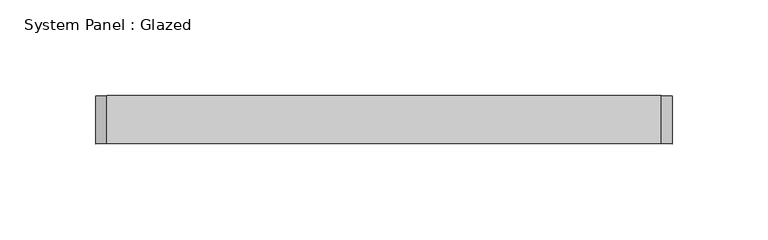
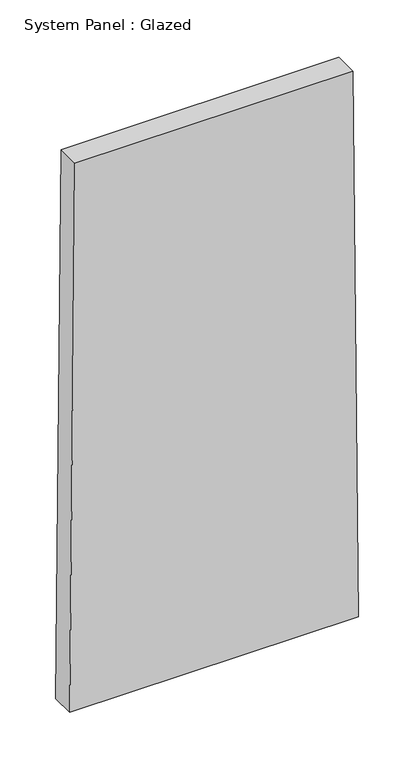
"""IFC4 building model written with IfcOpenShell, lengths in millimetres: plate geometry, System Panel : Glazed."""

import ifcopenshell
import ifcopenshell.guid

model = None  # the IFC model being written
_history = None  # IfcOwnerHistory: only IFC2X3 demands one
_inside = {}  # id of a spatial element -> (the spatial element, [elements in it])
_under = {}  # id of a project, library or spatial element -> (it, [spatial elements below it])
_declared = {}  # id of a project -> (the project, [libraries it declares])
_typed = {}  # id of a type object -> (the type object, [elements of that type])
_made_of = {}  # id of a material, layer set ... -> (it, [elements and type objects made of it])


def new_model(schema):
    """Start an empty IFC model of exactly this schema.

    Asked for "IFC4X3", IfcOpenShell would pick the latest addendum, in which some entities
    have other attributes; the version numbers below select the first issue.
    IFC2X3 requires an IfcOwnerHistory on every rooted entity: one is made here for all.
    """
    global model, _history
    if schema == "IFC4X3":
        model = ifcopenshell.file(schema_version=(4, 3, 0, 0))
    else:
        model = ifcopenshell.file(schema=schema)
    _inside.clear()
    _under.clear()
    _declared.clear()
    _typed.clear()
    _made_of.clear()
    _history = None
    if model.schema == "IFC2X3":
        org = make("IfcOrganization", Name="unknown")
        user = make(
            "IfcPersonAndOrganization",
            ThePerson=make("IfcPerson", FamilyName="unknown"),
            TheOrganization=org,
        )
        app = make(
            "IfcApplication",
            ApplicationDeveloper=org,
            Version="unknown",
            ApplicationFullName="unknown",
            ApplicationIdentifier="unknown",
        )
        _history = make(
            "IfcOwnerHistory",
            OwningUser=user,
            OwningApplication=app,
            ChangeAction="ADDED",
            CreationDate=0,
        )
    return model


def make(cls, **values):
    """One entity of the class cls with the attributes given. An attribute that is None is left unset."""
    return model.create_entity(
        cls, **{name: value for name, value in values.items() if value is not None}
    )


def rooted(cls, **values):
    """An entity with a GlobalId (a new one), such as an element, a storey or a relation."""
    return make(cls, GlobalId=ifcopenshell.guid.new(), OwnerHistory=_history, **values)


def si_unit(unit_type, name, prefix=None):
    """IfcSIUnit, for example si_unit("LENGTHUNIT", "METRE", prefix="MILLI")."""
    return make("IfcSIUnit", UnitType=unit_type, Prefix=prefix, Name=name)


def assignment(units):
    """IfcUnitAssignment: the units of a project."""
    return None if units is None else make("IfcUnitAssignment", Units=units)


def point(xyz):
    """IfcCartesianPoint."""
    return None if xyz is None else make("IfcCartesianPoint", Coordinates=xyz)


def direction(xyz):
    """IfcDirection."""
    return None if xyz is None else make("IfcDirection", DirectionRatios=xyz)


def frame(location, z_axis=None, x_axis=None):
    """IfcAxis2Placement3D, a coordinate frame: its origin and axes. An axis left out is left unset."""
    return make(
        "IfcAxis2Placement3D",
        Location=point(location),
        Axis=direction(z_axis),
        RefDirection=direction(x_axis),
    )


def origin():
    """The frame at (0, 0, 0) with its axes left unset."""
    return frame((0.0, 0.0, 0.0))


def place(relative_to, where):
    """IfcLocalPlacement: puts the frame where relative to a parent placement (None: the world)."""
    return make(
        "IfcLocalPlacement", PlacementRelTo=relative_to, RelativePlacement=where
    )


def context(
    kind, dimensions, precision=None, world=None, true_north=None, identifier=None
):
    """IfcGeometricRepresentationContext, for example the 3D "Model" context."""
    return make(
        "IfcGeometricRepresentationContext",
        ContextIdentifier=identifier,
        ContextType=kind,
        CoordinateSpaceDimension=dimensions,
        Precision=precision,
        WorldCoordinateSystem=world,
        TrueNorth=true_north,
    )


def project(units=None, contexts=None):
    """IfcProject with its units and contexts."""
    return rooted(
        "IfcProject",
        Name="project",
        RepresentationContexts=contexts,
        UnitsInContext=assignment(units),
    )


def spatial(cls, under=None, at=None, **own):
    """A site, building, storey or space (cls), placed at a placement, below another one or the project."""
    s = rooted(cls, ObjectPlacement=at, **own)
    if under is not None:
        _under.setdefault(under.id(), (under, []))[1].append(s)
    return s


def polyline(points):
    """IfcPolyline through the points."""
    return make("IfcPolyline", Points=[point(p) for p in points])


def outline(outer, holes=None, kind="AREA"):
    """IfcArbitraryClosedProfileDef: a profile drawn as a closed curve; with holes, ...WithVoids."""
    if holes is None:
        return make("IfcArbitraryClosedProfileDef", ProfileType=kind, OuterCurve=outer)
    return make(
        "IfcArbitraryProfileDefWithVoids",
        ProfileType=kind,
        OuterCurve=outer,
        InnerCurves=holes,
    )


def extrude(swept, where, along, depth):
    """IfcExtrudedAreaSolid: the profile swept, set in the frame where, extruded along a direction by depth."""
    return make(
        "IfcExtrudedAreaSolid",
        SweptArea=swept,
        Position=where,
        ExtrudedDirection=direction(along),
        Depth=depth,
    )


def shape(context_of_items, identifier, shape_type, items):
    """IfcShapeRepresentation: the items that make up one representation, for example the "Body"."""
    return make(
        "IfcShapeRepresentation",
        ContextOfItems=context_of_items,
        RepresentationIdentifier=identifier,
        RepresentationType=shape_type,
        Items=items,
    )


def source(mapping_origin, context_of_items, identifier, shape_type, items):
    """IfcRepresentationMap: a shape defined once, which mapped items show again and again."""
    return make(
        "IfcRepresentationMap",
        MappingOrigin=mapping_origin,
        MappedRepresentation=shape(context_of_items, identifier, shape_type, items),
    )


def transform(
    local_origin,
    x_axis=None,
    y_axis=None,
    z_axis=None,
    scale=None,
    scale2=None,
    scale3=None,
    uniform=True,
):
    """IfcCartesianTransformationOperator3D, or its non-uniform kind. x_axis, y_axis, z_axis: its Axis1, 2, 3."""
    if uniform:
        return make(
            "IfcCartesianTransformationOperator3D",
            Axis1=direction(x_axis),
            Axis2=direction(y_axis),
            LocalOrigin=point(local_origin),
            Scale=scale,
            Axis3=direction(z_axis),
        )
    return make(
        "IfcCartesianTransformationOperator3DnonUniform",
        Axis1=direction(x_axis),
        Axis2=direction(y_axis),
        LocalOrigin=point(local_origin),
        Scale=scale,
        Axis3=direction(z_axis),
        Scale2=scale2,
        Scale3=scale3,
    )


def mapped(mapping_source, mapping_target):
    """IfcMappedItem: shows the shape of a source again, moved by a transform."""
    return make(
        "IfcMappedItem", MappingSource=mapping_source, MappingTarget=mapping_target
    )


def made_of(thing, what):
    """Note that an element or type object is made of a material, layer set ...; save() writes the relation."""
    if what is not None:
        _made_of.setdefault(what.id(), (what, []))[1].append(thing)
    return thing


def element(
    cls,
    number,
    at=None,
    inside=None,
    cuts=None,
    type_object=None,
    material=None,
    context=None,
    identifier="Body",
    shape_type=None,
    held_by="IfcProductDefinitionShape",
    body=None,
    shapes=None,
    **own,
):
    """One element of the class cls, such as IfcWall. Its Tag is "e" and its number.

    at: its placement. inside: the storey or other place that contains it. cuts: it is an
    opening in that element (IfcRelVoidsElement). A single representation is given by context,
    identifier, shape_type and body (its items); several are given by shapes. held_by: the class
    of the entity that holds the representations. save() writes the other relations.
    """
    e = rooted(cls, Tag="e%d" % number, ObjectPlacement=at, **own)
    if body is not None:
        shapes = [shape(context, identifier, shape_type, body)]
    if shapes is not None:
        e.Representation = make(held_by, Representations=shapes)
    if inside is not None:
        _inside.setdefault(inside.id(), (inside, []))[1].append(e)
    if cuts is not None:
        rooted(
            "IfcRelVoidsElement", RelatingBuildingElement=cuts, RelatedOpeningElement=e
        )
    if type_object is not None:
        _typed.setdefault(type_object.id(), (type_object, []))[1].append(e)
    return made_of(e, material)


def aggregate(whole, parts):
    """IfcRelAggregates: a whole, such as a stair, and the parts it consists of."""
    return rooted("IfcRelAggregates", RelatingObject=whole, RelatedObjects=parts)


def save(model, path):
    """Write the relations noted so far, then the file.

    IfcRelAggregates (storeys below a building ...), IfcRelContainedInSpatialStructure (elements
    in a storey), IfcRelDefinesByType, IfcRelAssociatesMaterial and IfcRelDeclares: one each for
    every whole, place, type object, material and project.
    """
    for whole, parts in _under.values():
        aggregate(whole, parts)
    for where, things in _inside.values():
        rooted(
            "IfcRelContainedInSpatialStructure",
            RelatedElements=things,
            RelatingStructure=where,
        )
    for kind, things in _typed.values():
        rooted("IfcRelDefinesByType", RelatedObjects=things, RelatingType=kind)
    for what, things in _made_of.values():
        rooted("IfcRelAssociatesMaterial", RelatedObjects=things, RelatingMaterial=what)
    for by, libraries in _declared.values():
        rooted("IfcRelDeclares", RelatingContext=by, RelatedDefinitions=libraries)
    model.write(path)


def system_panel_glazed_8a0f903b(model_context):
    return source(origin(), model_context, "Body", "SweptSolid", [
        extrude(outline(polyline([(0.0, -150.0043564), (0.0, 150.0043564), (599.9738493, 144.4025597), (599.9738493, -144.4025597), (0.0, -150.0043564)])), frame((0.0, 24.5, 0.0), z_axis=(0.0, 1.0, 0.0), x_axis=(0.0, 0.0, 1.0)), (0.0, 0.0, 1.0), 25.0),
    ])


if __name__ == "__main__":
    model = new_model("IFC4")
    model_context = context("Model", 3, world=origin())
    ifc_project = project(units=[si_unit("LENGTHUNIT", "METRE", prefix="MILLI")], contexts=[model_context])
    site = spatial("IfcSite", under=ifc_project)
    building = spatial("IfcBuilding", under=site)
    placement = place(None, origin())
    system_panel_glazed_shape = system_panel_glazed_8a0f903b(model_context)
    element("IfcPlate", 1, ObjectType="System Panel : Glazed", at=placement, inside=building, context=model_context, shape_type="MappedRepresentation", body=[
        mapped(system_panel_glazed_shape, transform((0.0, 0.0, 0.0), x_axis=(1.0, 0.0, 0.0), y_axis=(0.0, 1.0, 0.0), z_axis=(0.0, 0.0, 1.0))),
    ])
    save(model, "model.ifc")
